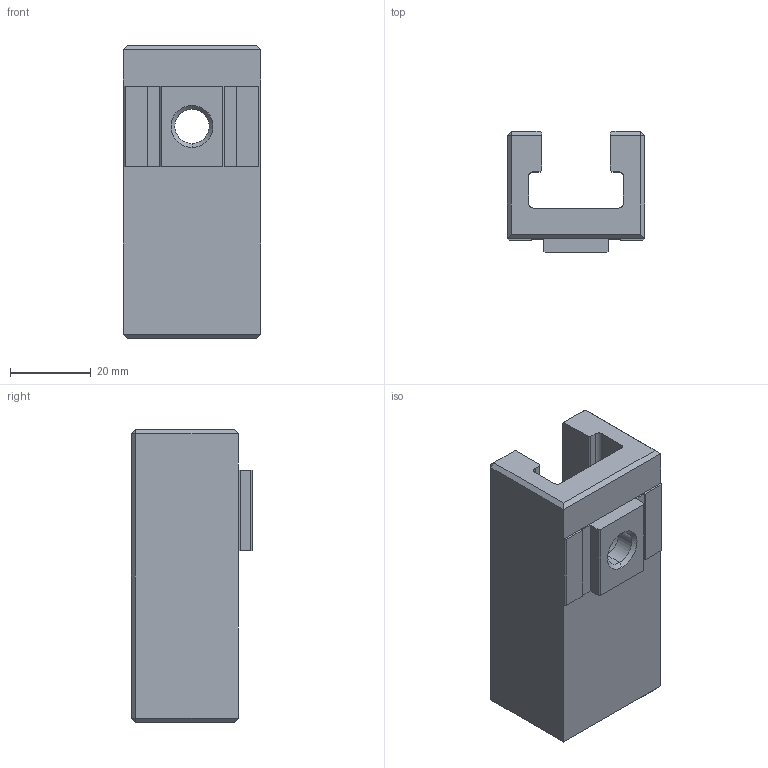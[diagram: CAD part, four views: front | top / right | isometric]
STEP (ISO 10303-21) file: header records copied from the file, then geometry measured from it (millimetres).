
FILE_DESCRIPTION (( 'STEP AP214' ), '1' );
FILE_NAME ('DEV-BR-AJC10S.STEP', '2024-08-07T05:37:13', ( '' ), ( '' ), 'SwSTEP 2.0', 'SolidWorks 2022', '' );
FILE_SCHEMA (( 'AUTOMOTIVE_DESIGN' ));
Length unit declared in the file: millimetre
Products named in the file (1): DEV-BR-AJC10S
Bounding box: 34 x 30 x 72.5 mm (x, y, z)
Volume: 37448.6 mm3; surface area: 13613.8 mm2
Topology: 1 solids, 1 shells, 68 faces, 175 edges, 110 vertices
Faces by surface type: plane 52, cylinder 12, torus 2, cone 2
Entity records: 2102 total; most frequent: CARTESIAN_POINT 378, ORIENTED_EDGE 350, DIRECTION 336, EDGE_CURVE 175, LINE 144, VECTOR 144, VERTEX_POINT 110, AXIS2_PLACEMENT_3D 96
